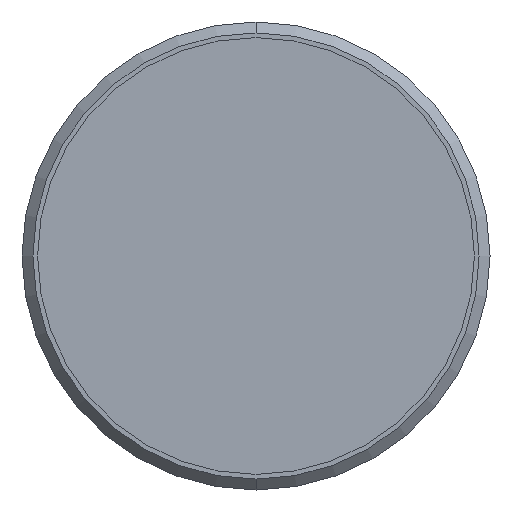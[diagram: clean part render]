
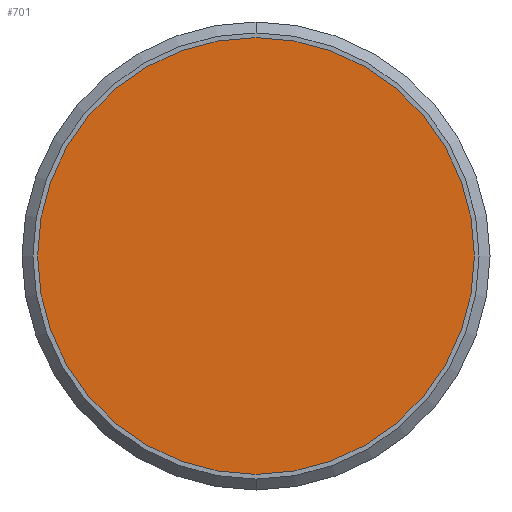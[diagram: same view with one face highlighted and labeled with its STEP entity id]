
A CAD part, front view. The second image highlights one B-rep face of the part: STEP entity #701.
In plain terms, the highlighted planar face has unit normal (0, -1, 0).
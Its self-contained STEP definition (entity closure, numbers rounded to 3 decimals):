
#4 = ORIENTED_EDGE ( 'NONE', *, *, #782, .F. ) ;
#93 = CIRCLE ( 'NONE', #211, 14. ) ;
#204 = CIRCLE ( 'NONE', #624, 14. ) ;
#211 = AXIS2_PLACEMENT_3D ( 'NONE', #636, #540, #952 ) ;
#226 = DIRECTION ( 'NONE',  ( 0., 0., 1. ) ) ;
#342 = VERTEX_POINT ( 'NONE', #500 ) ;
#380 = EDGE_CURVE ( 'NONE', #968, #342, #204, .T. ) ;
#399 = DIRECTION ( 'NONE',  ( 0., 1., 0. ) ) ;
#500 = CARTESIAN_POINT ( 'NONE',  ( 0., 0., -14. ) ) ;
#533 = CARTESIAN_POINT ( 'NONE',  ( 0., 0., 0. ) ) ;
#540 = DIRECTION ( 'NONE',  ( 0., 1., 0. ) ) ;
#545 = EDGE_LOOP ( 'NONE', ( #4, #807 ) ) ;
#553 = FACE_OUTER_BOUND ( 'NONE', #545, .T. ) ;
#624 = AXIS2_PLACEMENT_3D ( 'NONE', #810, #399, #1048 ) ;
#636 = CARTESIAN_POINT ( 'NONE',  ( 0., 0., 0. ) ) ;
#701 = ADVANCED_FACE ( 'NONE', ( #553 ), #1193, .F. ) ;
#782 = EDGE_CURVE ( 'NONE', #342, #968, #93, .T. ) ;
#807 = ORIENTED_EDGE ( 'NONE', *, *, #380, .F. ) ;
#810 = CARTESIAN_POINT ( 'NONE',  ( 0., 0., 0. ) ) ;
#952 = DIRECTION ( 'NONE',  ( 0., 0., 1. ) ) ;
#968 = VERTEX_POINT ( 'NONE', #1349 ) ;
#1048 = DIRECTION ( 'NONE',  ( 0., 0., 1. ) ) ;
#1140 = AXIS2_PLACEMENT_3D ( 'NONE', #533, #1177, #226 ) ;
#1177 = DIRECTION ( 'NONE',  ( 0., 1., 0. ) ) ;
#1193 = PLANE ( 'NONE',  #1140 ) ;
#1349 = CARTESIAN_POINT ( 'NONE',  ( 0., 0., 14. ) ) ;
